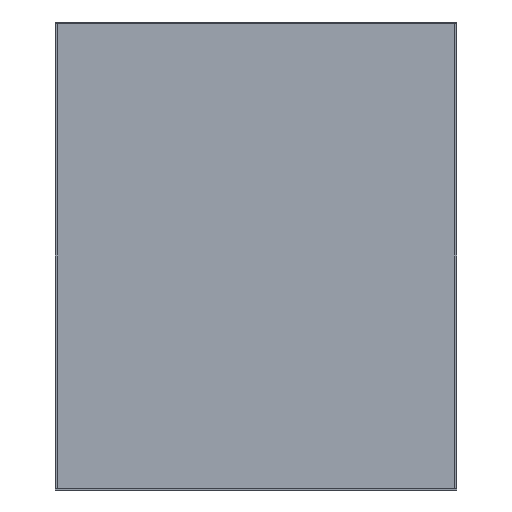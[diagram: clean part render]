
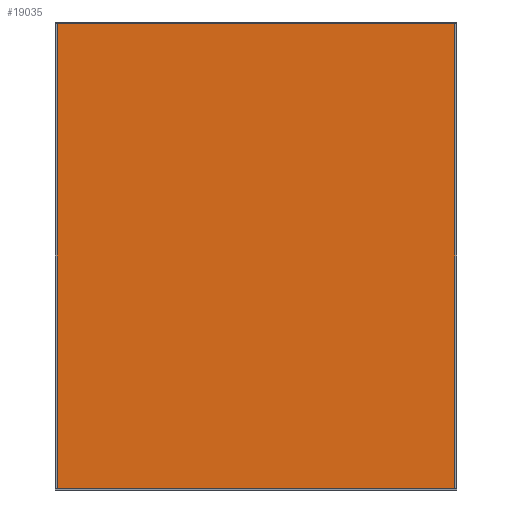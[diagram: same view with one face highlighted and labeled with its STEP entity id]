
A CAD part, front view. The second image highlights one B-rep face of the part: STEP entity #19035.
In plain terms, the highlighted planar face has unit normal (0, -1, 0).
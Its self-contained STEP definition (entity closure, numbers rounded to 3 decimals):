
#18819 = EDGE_CURVE('',#18820,#18822,#18824,.T.);
#18820 = VERTEX_POINT('',#18821);
#18821 = CARTESIAN_POINT('',(-0.155,-0.096,0.002)
  );
#18822 = VERTEX_POINT('',#18823);
#18823 = CARTESIAN_POINT('',(-0.155,-0.096,
    0.364));
#18824 = SURFACE_CURVE('',#18825,(#18829,#18841),.PCURVE_S1.);
#18825 = LINE('',#18826,#18827);
#18826 = CARTESIAN_POINT('',(-0.155,-0.096,0.002)
  );
#18827 = VECTOR('',#18828,1.);
#18828 = DIRECTION('',(0.,0.,1.));
#18829 = PCURVE('',#18830,#18835);
#18830 = PLANE('',#18831);
#18831 = AXIS2_PLACEMENT_3D('',#18832,#18833,#18834);
#18832 = CARTESIAN_POINT('',(-0.155,-0.096,0.002)
  );
#18833 = DIRECTION('',(1.,0.,0.));
#18834 = DIRECTION('',(0.,0.,1.));
#18835 = DEFINITIONAL_REPRESENTATION('',(#18836),#18840);
#18836 = LINE('',#18837,#18838);
#18837 = CARTESIAN_POINT('',(0.,0.));
#18838 = VECTOR('',#18839,1.);
#18839 = DIRECTION('',(1.,0.));
#18840 = ( GEOMETRIC_REPRESENTATION_CONTEXT(2) 
PARAMETRIC_REPRESENTATION_CONTEXT() REPRESENTATION_CONTEXT('2D SPACE',''
  ) );
#18841 = PCURVE('',#18842,#18847);
#18842 = PLANE('',#18843);
#18843 = AXIS2_PLACEMENT_3D('',#18844,#18845,#18846);
#18844 = CARTESIAN_POINT('',(-0.155,-0.096,0.002)
  );
#18845 = DIRECTION('',(0.,1.,0.));
#18846 = DIRECTION('',(0.,0.,1.));
#18847 = DEFINITIONAL_REPRESENTATION('',(#18848),#18852);
#18848 = LINE('',#18849,#18850);
#18849 = CARTESIAN_POINT('',(0.,0.));
#18850 = VECTOR('',#18851,1.);
#18851 = DIRECTION('',(1.,0.));
#18852 = ( GEOMETRIC_REPRESENTATION_CONTEXT(2) 
PARAMETRIC_REPRESENTATION_CONTEXT() REPRESENTATION_CONTEXT('2D SPACE',''
  ) );
#18870 = PLANE('',#18871);
#18871 = AXIS2_PLACEMENT_3D('',#18872,#18873,#18874);
#18872 = CARTESIAN_POINT('',(-0.155,-0.096,0.002)
  );
#18873 = DIRECTION('',(0.,0.,1.));
#18874 = DIRECTION('',(1.,0.,0.));
#18924 = PLANE('',#18925);
#18925 = AXIS2_PLACEMENT_3D('',#18926,#18927,#18928);
#18926 = CARTESIAN_POINT('',(-0.155,-0.096,
    0.364));
#18927 = DIRECTION('',(0.,0.,1.));
#18928 = DIRECTION('',(1.,0.,0.));
#18939 = EDGE_CURVE('',#18940,#18942,#18944,.T.);
#18940 = VERTEX_POINT('',#18941);
#18941 = CARTESIAN_POINT('',(0.155,-0.096,0.002)
  );
#18942 = VERTEX_POINT('',#18943);
#18943 = CARTESIAN_POINT('',(0.155,-0.096,
    0.364));
#18944 = SURFACE_CURVE('',#18945,(#18949,#18961),.PCURVE_S1.);
#18945 = LINE('',#18946,#18947);
#18946 = CARTESIAN_POINT('',(0.155,-0.096,0.002)
  );
#18947 = VECTOR('',#18948,1.);
#18948 = DIRECTION('',(0.,0.,1.));
#18949 = PCURVE('',#18950,#18955);
#18950 = PLANE('',#18951);
#18951 = AXIS2_PLACEMENT_3D('',#18952,#18953,#18954);
#18952 = CARTESIAN_POINT('',(0.155,-0.096,0.002)
  );
#18953 = DIRECTION('',(1.,0.,0.));
#18954 = DIRECTION('',(0.,0.,1.));
#18955 = DEFINITIONAL_REPRESENTATION('',(#18956),#18960);
#18956 = LINE('',#18957,#18958);
#18957 = CARTESIAN_POINT('',(0.,0.));
#18958 = VECTOR('',#18959,1.);
#18959 = DIRECTION('',(1.,0.));
#18960 = ( GEOMETRIC_REPRESENTATION_CONTEXT(2) 
PARAMETRIC_REPRESENTATION_CONTEXT() REPRESENTATION_CONTEXT('2D SPACE',''
  ) );
#18961 = PCURVE('',#18842,#18962);
#18962 = DEFINITIONAL_REPRESENTATION('',(#18963),#18967);
#18963 = LINE('',#18964,#18965);
#18964 = CARTESIAN_POINT('',(0.,0.31));
#18965 = VECTOR('',#18966,1.);
#18966 = DIRECTION('',(1.,0.));
#18967 = ( GEOMETRIC_REPRESENTATION_CONTEXT(2) 
PARAMETRIC_REPRESENTATION_CONTEXT() REPRESENTATION_CONTEXT('2D SPACE',''
  ) );
#19035 = ADVANCED_FACE('',(#19036),#18842,.F.);
#19036 = FACE_BOUND('',#19037,.F.);
#19037 = EDGE_LOOP('',(#19038,#19059,#19060,#19081));
#19038 = ORIENTED_EDGE('',*,*,#19039,.F.);
#19039 = EDGE_CURVE('',#18820,#18940,#19040,.T.);
#19040 = SURFACE_CURVE('',#19041,(#19045,#19052),.PCURVE_S1.);
#19041 = LINE('',#19042,#19043);
#19042 = CARTESIAN_POINT('',(-0.155,-0.096,0.002)
  );
#19043 = VECTOR('',#19044,1.);
#19044 = DIRECTION('',(1.,0.,0.));
#19045 = PCURVE('',#18842,#19046);
#19046 = DEFINITIONAL_REPRESENTATION('',(#19047),#19051);
#19047 = LINE('',#19048,#19049);
#19048 = CARTESIAN_POINT('',(0.,0.));
#19049 = VECTOR('',#19050,1.);
#19050 = DIRECTION('',(0.,1.));
#19051 = ( GEOMETRIC_REPRESENTATION_CONTEXT(2) 
PARAMETRIC_REPRESENTATION_CONTEXT() REPRESENTATION_CONTEXT('2D SPACE',''
  ) );
#19052 = PCURVE('',#18870,#19053);
#19053 = DEFINITIONAL_REPRESENTATION('',(#19054),#19058);
#19054 = LINE('',#19055,#19056);
#19055 = CARTESIAN_POINT('',(0.,0.));
#19056 = VECTOR('',#19057,1.);
#19057 = DIRECTION('',(1.,0.));
#19058 = ( GEOMETRIC_REPRESENTATION_CONTEXT(2) 
PARAMETRIC_REPRESENTATION_CONTEXT() REPRESENTATION_CONTEXT('2D SPACE',''
  ) );
#19059 = ORIENTED_EDGE('',*,*,#18819,.T.);
#19060 = ORIENTED_EDGE('',*,*,#19061,.T.);
#19061 = EDGE_CURVE('',#18822,#18942,#19062,.T.);
#19062 = SURFACE_CURVE('',#19063,(#19067,#19074),.PCURVE_S1.);
#19063 = LINE('',#19064,#19065);
#19064 = CARTESIAN_POINT('',(-0.155,-0.096,
    0.364));
#19065 = VECTOR('',#19066,1.);
#19066 = DIRECTION('',(1.,0.,0.));
#19067 = PCURVE('',#18842,#19068);
#19068 = DEFINITIONAL_REPRESENTATION('',(#19069),#19073);
#19069 = LINE('',#19070,#19071);
#19070 = CARTESIAN_POINT('',(0.362,0.));
#19071 = VECTOR('',#19072,1.);
#19072 = DIRECTION('',(0.,1.));
#19073 = ( GEOMETRIC_REPRESENTATION_CONTEXT(2) 
PARAMETRIC_REPRESENTATION_CONTEXT() REPRESENTATION_CONTEXT('2D SPACE',''
  ) );
#19074 = PCURVE('',#18924,#19075);
#19075 = DEFINITIONAL_REPRESENTATION('',(#19076),#19080);
#19076 = LINE('',#19077,#19078);
#19077 = CARTESIAN_POINT('',(0.,0.));
#19078 = VECTOR('',#19079,1.);
#19079 = DIRECTION('',(1.,0.));
#19080 = ( GEOMETRIC_REPRESENTATION_CONTEXT(2) 
PARAMETRIC_REPRESENTATION_CONTEXT() REPRESENTATION_CONTEXT('2D SPACE',''
  ) );
#19081 = ORIENTED_EDGE('',*,*,#18939,.F.);
